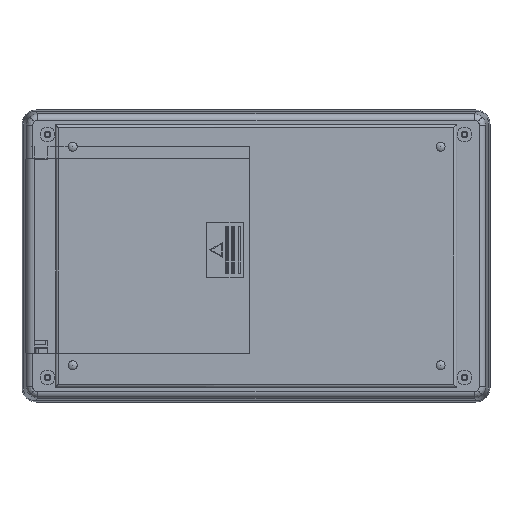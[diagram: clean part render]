
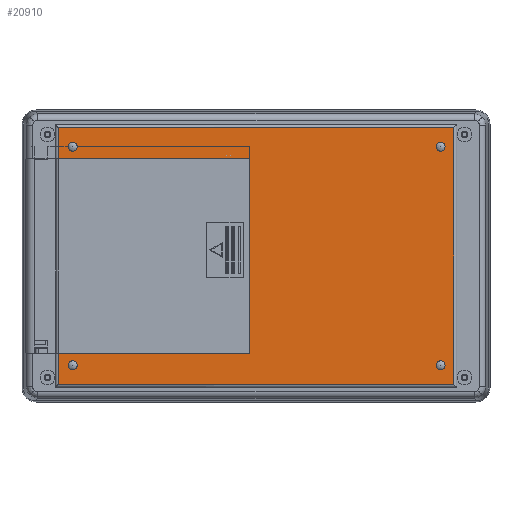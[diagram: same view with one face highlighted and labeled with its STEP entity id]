
A CAD part, front view. The second image highlights one B-rep face of the part: STEP entity #20910.
In plain terms, the highlighted planar face has unit normal (0, -1, 0).
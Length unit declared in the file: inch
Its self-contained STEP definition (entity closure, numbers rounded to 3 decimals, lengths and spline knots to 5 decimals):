
#808 = CARTESIAN_POINT ( 'NONE',  ( -2.26378, -0.70866, 1.29528 ) ) ;
#874 = EDGE_CURVE ( 'NONE', #12763, #2975, #21053, .T. ) ;
#1010 = DIRECTION ( 'NONE',  ( 0., 0., -1. ) ) ;
#1309 = CARTESIAN_POINT ( 'NONE',  ( -2.44094, -0.70866, -1.20079 ) ) ;
#1406 = DIRECTION ( 'NONE',  ( 1., 0., 0. ) ) ;
#1697 = ORIENTED_EDGE ( 'NONE', *, *, #13147, .F. ) ;
#2054 = FACE_BOUND ( 'NONE', #4523, .T. ) ;
#2266 = ORIENTED_EDGE ( 'NONE', *, *, #8444, .T. ) ;
#2286 = CIRCLE ( 'NONE', #26990, 0.05512 ) ;
#2319 = EDGE_CURVE ( 'NONE', #12817, #19788, #8986, .T. ) ;
#2361 = VERTEX_POINT ( 'NONE', #13311 ) ;
#2393 = CARTESIAN_POINT ( 'NONE',  ( -0.07874, -0.70866, 1.20079 ) ) ;
#2495 = AXIS2_PLACEMENT_3D ( 'NONE', #3613, #18243, #5732 ) ;
#2720 = FACE_OUTER_BOUND ( 'NONE', #10520, .T. ) ;
#2777 = EDGE_CURVE ( 'NONE', #2789, #12747, #3374, .T. ) ;
#2789 = VERTEX_POINT ( 'NONE', #1309 ) ;
#2975 = VERTEX_POINT ( 'NONE', #25216 ) ;
#2993 = VERTEX_POINT ( 'NONE', #6526 ) ;
#2999 = LINE ( 'NONE', #2393, #7897 ) ;
#3022 = CARTESIAN_POINT ( 'NONE',  ( -2.44094, -0.70866, -1.62402 ) ) ;
#3035 = ORIENTED_EDGE ( 'NONE', *, *, #21484, .F. ) ;
#3140 = VECTOR ( 'NONE', #19836, 39.37008 ) ;
#3162 = CARTESIAN_POINT ( 'NONE',  ( -2.26378, -0.70866, 1.35039 ) ) ;
#3374 = LINE ( 'NONE', #7709, #19415 ) ;
#3393 = AXIS2_PLACEMENT_3D ( 'NONE', #3162, #17793, #5258 ) ;
#3613 = CARTESIAN_POINT ( 'NONE',  ( -2.26378, -0.70866, -1.35039 ) ) ;
#3726 = VECTOR ( 'NONE', #26250, 39.37008 ) ;
#3991 = CIRCLE ( 'NONE', #26271, 0.05512 ) ;
#4152 = DIRECTION ( 'NONE',  ( 0., 0., -1. ) ) ;
#4251 = EDGE_CURVE ( 'NONE', #2993, #20875, #3991, .T. ) ;
#4523 = EDGE_LOOP ( 'NONE', ( #1697, #14435 ) ) ;
#4915 = AXIS2_PLACEMENT_3D ( 'NONE', #20778, #16679, #4152 ) ;
#5037 = LINE ( 'NONE', #20675, #25267 ) ;
#5130 = DIRECTION ( 'NONE',  ( 0., 0., -1. ) ) ;
#5258 = DIRECTION ( 'NONE',  ( 0., 0., -1. ) ) ;
#5331 = CARTESIAN_POINT ( 'NONE',  ( 2.27953, -0.70866, -1.35039 ) ) ;
#5383 = ORIENTED_EDGE ( 'NONE', *, *, #2319, .T. ) ;
#5732 = DIRECTION ( 'NONE',  ( 0., 0., -1. ) ) ;
#6380 = CIRCLE ( 'NONE', #3393, 0.05512 ) ;
#6526 = CARTESIAN_POINT ( 'NONE',  ( 2.27953, -0.70866, 1.29528 ) ) ;
#6637 = AXIS2_PLACEMENT_3D ( 'NONE', #26014, #13496, #1010 ) ;
#7440 = DIRECTION ( 'NONE',  ( 0., 0., -1. ) ) ;
#7604 = FACE_BOUND ( 'NONE', #17742, .T. ) ;
#7692 = CIRCLE ( 'NONE', #14224, 0.05512 ) ;
#7709 = CARTESIAN_POINT ( 'NONE',  ( -0.07874, -0.70866, -1.20079 ) ) ;
#7829 = DIRECTION ( 'NONE',  ( 0., -1., 0. ) ) ;
#7831 = ORIENTED_EDGE ( 'NONE', *, *, #24327, .T. ) ;
#7897 = VECTOR ( 'NONE', #25297, 39.37008 ) ;
#8110 = CARTESIAN_POINT ( 'NONE',  ( -2.48031, -0.70866, 1.58465 ) ) ;
#8444 = EDGE_CURVE ( 'NONE', #2789, #12817, #9552, .T. ) ;
#8573 = CARTESIAN_POINT ( 'NONE',  ( 2.27953, -0.70866, 1.35039 ) ) ;
#8986 = LINE ( 'NONE', #15338, #24282 ) ;
#9170 = ORIENTED_EDGE ( 'NONE', *, *, #12619, .F. ) ;
#9295 = CARTESIAN_POINT ( 'NONE',  ( -2.26378, -0.70866, -1.29528 ) ) ;
#9368 = CARTESIAN_POINT ( 'NONE',  ( 2.27953, -0.70866, -1.40551 ) ) ;
#9552 = LINE ( 'NONE', #3022, #26204 ) ;
#9598 = EDGE_LOOP ( 'NONE', ( #17524, #20641 ) ) ;
#10032 = CIRCLE ( 'NONE', #2495, 0.05512 ) ;
#10520 = EDGE_LOOP ( 'NONE', ( #3035, #25473, #10808, #2266, #5383, #7831, #14919, #18926 ) ) ;
#10650 = DIRECTION ( 'NONE',  ( 0., 0., -1. ) ) ;
#10808 = ORIENTED_EDGE ( 'NONE', *, *, #2777, .F. ) ;
#10814 = CARTESIAN_POINT ( 'NONE',  ( -2.26378, -0.70866, -1.35039 ) ) ;
#10821 = EDGE_CURVE ( 'NONE', #18531, #14112, #10032, .T. ) ;
#11230 = ORIENTED_EDGE ( 'NONE', *, *, #17313, .F. ) ;
#11491 = DIRECTION ( 'NONE',  ( 0., -1., 0. ) ) ;
#11880 = CIRCLE ( 'NONE', #6637, 0.05512 ) ;
#12189 = DIRECTION ( 'NONE',  ( -1., 0., 0. ) ) ;
#12619 = EDGE_CURVE ( 'NONE', #14112, #18531, #7692, .T. ) ;
#12747 = VERTEX_POINT ( 'NONE', #22321 ) ;
#12763 = VERTEX_POINT ( 'NONE', #18247 ) ;
#12817 = VERTEX_POINT ( 'NONE', #20527 ) ;
#12913 = DIRECTION ( 'NONE',  ( 0., 0., -1. ) ) ;
#12976 = CIRCLE ( 'NONE', #22637, 0.05512 ) ;
#13147 = EDGE_CURVE ( 'NONE', #2361, #15446, #6380, .T. ) ;
#13151 = FACE_BOUND ( 'NONE', #15939, .T. ) ;
#13311 = CARTESIAN_POINT ( 'NONE',  ( -2.26378, -0.70866, 1.40551 ) ) ;
#13477 = VERTEX_POINT ( 'NONE', #25041 ) ;
#13496 = DIRECTION ( 'NONE',  ( 0., -1., 0. ) ) ;
#13531 = CIRCLE ( 'NONE', #17836, 0.05512 ) ;
#14112 = VERTEX_POINT ( 'NONE', #9295 ) ;
#14224 = AXIS2_PLACEMENT_3D ( 'NONE', #10814, #25422, #12913 ) ;
#14415 = CARTESIAN_POINT ( 'NONE',  ( -2.26378, -0.70866, -1.40551 ) ) ;
#14435 = ORIENTED_EDGE ( 'NONE', *, *, #26032, .F. ) ;
#14555 = PLANE ( 'NONE',  #4915 ) ;
#14919 = ORIENTED_EDGE ( 'NONE', *, *, #17396, .T. ) ;
#15338 = CARTESIAN_POINT ( 'NONE',  ( 2.48031, -0.70866, -1.58465 ) ) ;
#15446 = VERTEX_POINT ( 'NONE', #808 ) ;
#15928 = VECTOR ( 'NONE', #12189, 39.37008 ) ;
#15939 = EDGE_LOOP ( 'NONE', ( #11230, #22950 ) ) ;
#16042 = CARTESIAN_POINT ( 'NONE',  ( 2.27953, -0.70866, -1.29528 ) ) ;
#16679 = DIRECTION ( 'NONE',  ( 0., -1., 0. ) ) ;
#17313 = EDGE_CURVE ( 'NONE', #20875, #2993, #12976, .T. ) ;
#17396 = EDGE_CURVE ( 'NONE', #13477, #12763, #27037, .T. ) ;
#17524 = ORIENTED_EDGE ( 'NONE', *, *, #22415, .F. ) ;
#17701 = VERTEX_POINT ( 'NONE', #19706 ) ;
#17738 = VERTEX_POINT ( 'NONE', #9368 ) ;
#17742 = EDGE_LOOP ( 'NONE', ( #9170, #23300 ) ) ;
#17748 = CARTESIAN_POINT ( 'NONE',  ( 2.44094, -0.70866, 1.62402 ) ) ;
#17793 = DIRECTION ( 'NONE',  ( 0., -1., 0. ) ) ;
#17836 = AXIS2_PLACEMENT_3D ( 'NONE', #23992, #11491, #26105 ) ;
#18243 = DIRECTION ( 'NONE',  ( 0., -1., 0. ) ) ;
#18247 = CARTESIAN_POINT ( 'NONE',  ( -2.44094, -0.70866, 1.58465 ) ) ;
#18531 = VERTEX_POINT ( 'NONE', #14415 ) ;
#18732 = FACE_BOUND ( 'NONE', #9598, .T. ) ;
#18926 = ORIENTED_EDGE ( 'NONE', *, *, #874, .T. ) ;
#19415 = VECTOR ( 'NONE', #1406, 39.37008 ) ;
#19706 = CARTESIAN_POINT ( 'NONE',  ( -0.07874, -0.70866, 1.20079 ) ) ;
#19788 = VERTEX_POINT ( 'NONE', #20576 ) ;
#19836 = DIRECTION ( 'NONE',  ( 0., 0., 1. ) ) ;
#19946 = DIRECTION ( 'NONE',  ( 0., -1., 0. ) ) ;
#20085 = EDGE_CURVE ( 'NONE', #17738, #23521, #11880, .T. ) ;
#20352 = CARTESIAN_POINT ( 'NONE',  ( 2.27953, -0.70866, 1.35039 ) ) ;
#20472 = LINE ( 'NONE', #17748, #3140 ) ;
#20527 = CARTESIAN_POINT ( 'NONE',  ( -2.44094, -0.70866, -1.58465 ) ) ;
#20576 = CARTESIAN_POINT ( 'NONE',  ( 2.44094, -0.70866, -1.58465 ) ) ;
#20641 = ORIENTED_EDGE ( 'NONE', *, *, #20085, .F. ) ;
#20675 = CARTESIAN_POINT ( 'NONE',  ( -0.07874, -0.70866, -1.20079 ) ) ;
#20778 = CARTESIAN_POINT ( 'NONE',  ( -2.48031, -0.70866, 1.62402 ) ) ;
#20875 = VERTEX_POINT ( 'NONE', #26981 ) ;
#20910 = ADVANCED_FACE ( 'NONE', ( #13151, #2720, #18732, #7604, #2054 ), #14555, .T. ) ;
#21053 = LINE ( 'NONE', #24136, #3726 ) ;
#21484 = EDGE_CURVE ( 'NONE', #17701, #2975, #2999, .T. ) ;
#22321 = CARTESIAN_POINT ( 'NONE',  ( -0.07874, -0.70866, -1.20079 ) ) ;
#22415 = EDGE_CURVE ( 'NONE', #23521, #17738, #2286, .T. ) ;
#22418 = DIRECTION ( 'NONE',  ( 0., 0., -1. ) ) ;
#22637 = AXIS2_PLACEMENT_3D ( 'NONE', #20352, #7829, #22418 ) ;
#22754 = DIRECTION ( 'NONE',  ( 0., 0., 1. ) ) ;
#22950 = ORIENTED_EDGE ( 'NONE', *, *, #4251, .F. ) ;
#23166 = DIRECTION ( 'NONE',  ( 0., -1., 0. ) ) ;
#23300 = ORIENTED_EDGE ( 'NONE', *, *, #10821, .F. ) ;
#23521 = VERTEX_POINT ( 'NONE', #16042 ) ;
#23992 = CARTESIAN_POINT ( 'NONE',  ( -2.26378, -0.70866, 1.35039 ) ) ;
#24136 = CARTESIAN_POINT ( 'NONE',  ( -2.44094, -0.70866, -1.62402 ) ) ;
#24282 = VECTOR ( 'NONE', #25743, 39.37008 ) ;
#24327 = EDGE_CURVE ( 'NONE', #19788, #13477, #20472, .T. ) ;
#25041 = CARTESIAN_POINT ( 'NONE',  ( 2.44094, -0.70866, 1.58465 ) ) ;
#25216 = CARTESIAN_POINT ( 'NONE',  ( -2.44094, -0.70866, 1.20079 ) ) ;
#25267 = VECTOR ( 'NONE', #22754, 39.37008 ) ;
#25297 = DIRECTION ( 'NONE',  ( -1., 0., 0. ) ) ;
#25422 = DIRECTION ( 'NONE',  ( 0., -1., 0. ) ) ;
#25473 = ORIENTED_EDGE ( 'NONE', *, *, #25680, .F. ) ;
#25680 = EDGE_CURVE ( 'NONE', #12747, #17701, #5037, .T. ) ;
#25743 = DIRECTION ( 'NONE',  ( 1., 0., 0. ) ) ;
#26014 = CARTESIAN_POINT ( 'NONE',  ( 2.27953, -0.70866, -1.35039 ) ) ;
#26032 = EDGE_CURVE ( 'NONE', #15446, #2361, #13531, .T. ) ;
#26105 = DIRECTION ( 'NONE',  ( 0., 0., -1. ) ) ;
#26204 = VECTOR ( 'NONE', #5130, 39.37008 ) ;
#26250 = DIRECTION ( 'NONE',  ( 0., 0., -1. ) ) ;
#26271 = AXIS2_PLACEMENT_3D ( 'NONE', #8573, #23166, #10650 ) ;
#26981 = CARTESIAN_POINT ( 'NONE',  ( 2.27953, -0.70866, 1.40551 ) ) ;
#26990 = AXIS2_PLACEMENT_3D ( 'NONE', #5331, #19946, #7440 ) ;
#27037 = LINE ( 'NONE', #8110, #15928 ) ;
